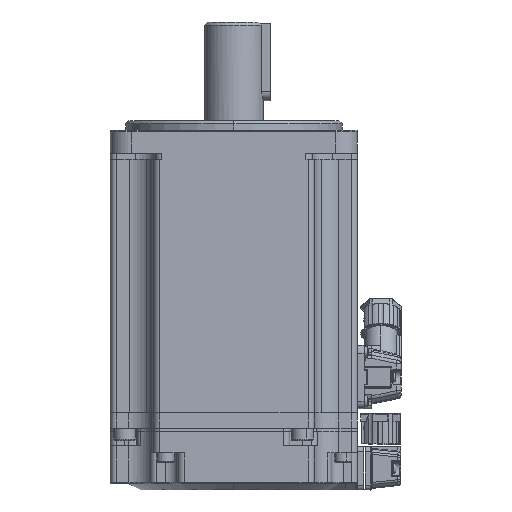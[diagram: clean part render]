
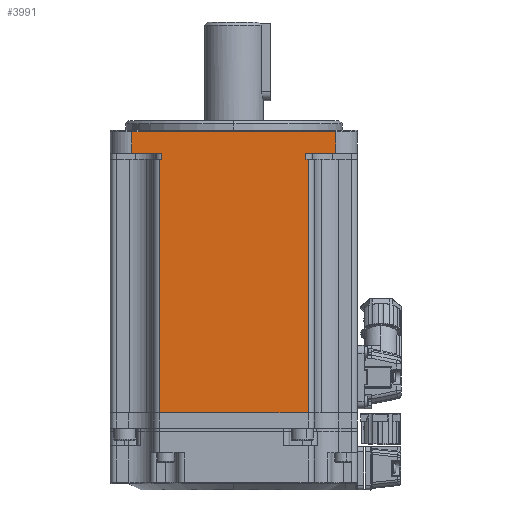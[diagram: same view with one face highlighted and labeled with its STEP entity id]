
A CAD part, left-side view. The second image highlights one B-rep face of the part: STEP entity #3991.
In plain terms, the highlighted planar face has unit normal (-1, 0, 0).
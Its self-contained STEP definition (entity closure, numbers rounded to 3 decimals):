
#212 = CARTESIAN_POINT ( 'NONE',  ( -40., -24., 8.5 ) ) ;
#221 = VERTEX_POINT ( 'NONE', #29542 ) ;
#739 = EDGE_CURVE ( 'NONE', #19801, #221, #12243, .T. ) ;
#1062 = LINE ( 'NONE', #7823, #16690 ) ;
#1416 = EDGE_CURVE ( 'NONE', #39603, #19801, #23987, .T. ) ;
#1534 = CARTESIAN_POINT ( 'NONE',  ( -40., 23.32, 0.5 ) ) ;
#1588 = VERTEX_POINT ( 'NONE', #24240 ) ;
#2739 = DIRECTION ( 'NONE',  ( 0., 0., 1. ) ) ;
#2791 = FACE_OUTER_BOUND ( 'NONE', #31351, .T. ) ;
#2872 = DIRECTION ( 'NONE',  ( 0., 0., -1. ) ) ;
#3349 = EDGE_CURVE ( 'NONE', #6799, #38193, #4257, .T. ) ;
#3959 = DIRECTION ( 'NONE',  ( 0., 0., 1. ) ) ;
#3991 = ADVANCED_FACE ( 'NONE', ( #2791 ), #26488, .F. ) ;
#4195 = EDGE_CURVE ( 'NONE', #13387, #221, #4584, .T. ) ;
#4232 = VECTOR ( 'NONE', #3959, 1000. ) ;
#4257 = LINE ( 'NONE', #37013, #31703 ) ;
#4584 = LINE ( 'NONE', #10572, #18000 ) ;
#5034 = CARTESIAN_POINT ( 'NONE',  ( -40., -40., 8.5 ) ) ;
#6639 = VERTEX_POINT ( 'NONE', #14399 ) ;
#6799 = VERTEX_POINT ( 'NONE', #15799 ) ;
#6903 = DIRECTION ( 'NONE',  ( 0., 0., -1. ) ) ;
#7823 = CARTESIAN_POINT ( 'NONE',  ( -40., 25.32, -1.5 ) ) ;
#7987 = LINE ( 'NONE', #42770, #11860 ) ;
#8015 = CARTESIAN_POINT ( 'NONE',  ( -40., 24., -83.5 ) ) ;
#10572 = CARTESIAN_POINT ( 'NONE',  ( -40., 0., 0.5 ) ) ;
#11254 = ORIENTED_EDGE ( 'NONE', *, *, #4195, .F. ) ;
#11860 = VECTOR ( 'NONE', #21970, 1000. ) ;
#12243 = LINE ( 'NONE', #20852, #20157 ) ;
#13387 = VERTEX_POINT ( 'NONE', #1534 ) ;
#13690 = LINE ( 'NONE', #212, #4232 ) ;
#13719 = ORIENTED_EDGE ( 'NONE', *, *, #3349, .T. ) ;
#13875 = LINE ( 'NONE', #40283, #33563 ) ;
#14074 = CARTESIAN_POINT ( 'NONE',  ( -40., -33., 7.5 ) ) ;
#14399 = CARTESIAN_POINT ( 'NONE',  ( -40., -24., -83.5 ) ) ;
#14847 = EDGE_CURVE ( 'NONE', #37792, #39093, #7987, .T. ) ;
#14909 = DIRECTION ( 'NONE',  ( 0., 0., 1. ) ) ;
#15666 = CARTESIAN_POINT ( 'NONE',  ( -40., -40., -83.5 ) ) ;
#15747 = CARTESIAN_POINT ( 'NONE',  ( -40., -23.32, -1.5 ) ) ;
#15799 = CARTESIAN_POINT ( 'NONE',  ( -40., -24., -1.5 ) ) ;
#16690 = VECTOR ( 'NONE', #26344, 1000. ) ;
#17903 = ORIENTED_EDGE ( 'NONE', *, *, #27830, .F. ) ;
#18000 = VECTOR ( 'NONE', #42668, 1000. ) ;
#18487 = EDGE_CURVE ( 'NONE', #6639, #6799, #13690, .T. ) ;
#19138 = ORIENTED_EDGE ( 'NONE', *, *, #24587, .T. ) ;
#19383 = CARTESIAN_POINT ( 'NONE',  ( -40., 33., 7.5 ) ) ;
#19801 = VERTEX_POINT ( 'NONE', #21420 ) ;
#20157 = VECTOR ( 'NONE', #2872, 1000. ) ;
#20421 = LINE ( 'NONE', #34967, #31643 ) ;
#20728 = VECTOR ( 'NONE', #6903, 1000. ) ;
#20852 = CARTESIAN_POINT ( 'NONE',  ( -40., 33., 8.5 ) ) ;
#21382 = VECTOR ( 'NONE', #43344, 1000. ) ;
#21420 = CARTESIAN_POINT ( 'NONE',  ( -40., 33., 7.5 ) ) ;
#21970 = DIRECTION ( 'NONE',  ( 0., 1., 0. ) ) ;
#22607 = ORIENTED_EDGE ( 'NONE', *, *, #739, .T. ) ;
#23001 = DIRECTION ( 'NONE',  ( 0., 1., 0. ) ) ;
#23284 = AXIS2_PLACEMENT_3D ( 'NONE', #5034, #26644, #30381 ) ;
#23725 = LINE ( 'NONE', #15666, #34907 ) ;
#23987 = LINE ( 'NONE', #19383, #42460 ) ;
#24240 = CARTESIAN_POINT ( 'NONE',  ( -40., 24., -1.5 ) ) ;
#24587 = EDGE_CURVE ( 'NONE', #38193, #39093, #13875, .T. ) ;
#26269 = ORIENTED_EDGE ( 'NONE', *, *, #30742, .T. ) ;
#26344 = DIRECTION ( 'NONE',  ( 0., 1., 0. ) ) ;
#26488 = PLANE ( 'NONE',  #23284 ) ;
#26644 = DIRECTION ( 'NONE',  ( 1., 0., 0. ) ) ;
#27780 = VERTEX_POINT ( 'NONE', #8015 ) ;
#27814 = ORIENTED_EDGE ( 'NONE', *, *, #40970, .T. ) ;
#27830 = EDGE_CURVE ( 'NONE', #6639, #27780, #23725, .T. ) ;
#28060 = ORIENTED_EDGE ( 'NONE', *, *, #34506, .T. ) ;
#28366 = CARTESIAN_POINT ( 'NONE',  ( -40., 24., -85. ) ) ;
#28970 = CARTESIAN_POINT ( 'NONE',  ( -40., 23.32, -1.5 ) ) ;
#29063 = ORIENTED_EDGE ( 'NONE', *, *, #31482, .T. ) ;
#29542 = CARTESIAN_POINT ( 'NONE',  ( -40., 33., 0.5 ) ) ;
#30381 = DIRECTION ( 'NONE',  ( 0., 0., -1. ) ) ;
#30742 = EDGE_CURVE ( 'NONE', #1588, #27780, #42531, .T. ) ;
#31351 = EDGE_LOOP ( 'NONE', ( #17903, #35072, #13719, #19138, #43909, #27814, #44401, #22607, #11254, #28060, #29063, #26269 ) ) ;
#31482 = EDGE_CURVE ( 'NONE', #36852, #1588, #1062, .T. ) ;
#31643 = VECTOR ( 'NONE', #2739, 1000. ) ;
#31703 = VECTOR ( 'NONE', #40286, 1000. ) ;
#33563 = VECTOR ( 'NONE', #14909, 1000. ) ;
#34506 = EDGE_CURVE ( 'NONE', #13387, #36852, #40971, .T. ) ;
#34907 = VECTOR ( 'NONE', #44451, 1000. ) ;
#34967 = CARTESIAN_POINT ( 'NONE',  ( -40., -33., 8.5 ) ) ;
#35072 = ORIENTED_EDGE ( 'NONE', *, *, #18487, .T. ) ;
#36470 = CARTESIAN_POINT ( 'NONE',  ( -40., -33., 0.5 ) ) ;
#36852 = VERTEX_POINT ( 'NONE', #37509 ) ;
#37013 = CARTESIAN_POINT ( 'NONE',  ( -40., -40., -1.5 ) ) ;
#37422 = CARTESIAN_POINT ( 'NONE',  ( -40., -23.32, 0.5 ) ) ;
#37509 = CARTESIAN_POINT ( 'NONE',  ( -40., 23.32, -1.5 ) ) ;
#37792 = VERTEX_POINT ( 'NONE', #36470 ) ;
#38193 = VERTEX_POINT ( 'NONE', #15747 ) ;
#39093 = VERTEX_POINT ( 'NONE', #37422 ) ;
#39603 = VERTEX_POINT ( 'NONE', #14074 ) ;
#40283 = CARTESIAN_POINT ( 'NONE',  ( -40., -23.32, 0.5 ) ) ;
#40286 = DIRECTION ( 'NONE',  ( 0., 1., 0. ) ) ;
#40970 = EDGE_CURVE ( 'NONE', #37792, #39603, #20421, .T. ) ;
#40971 = LINE ( 'NONE', #28970, #21382 ) ;
#42460 = VECTOR ( 'NONE', #23001, 1000. ) ;
#42531 = LINE ( 'NONE', #28366, #20728 ) ;
#42668 = DIRECTION ( 'NONE',  ( 0., 1., 0. ) ) ;
#42770 = CARTESIAN_POINT ( 'NONE',  ( -40., 0., 0.5 ) ) ;
#43344 = DIRECTION ( 'NONE',  ( 0., 0., -1. ) ) ;
#43909 = ORIENTED_EDGE ( 'NONE', *, *, #14847, .F. ) ;
#44401 = ORIENTED_EDGE ( 'NONE', *, *, #1416, .T. ) ;
#44451 = DIRECTION ( 'NONE',  ( 0., 1., 0. ) ) ;
